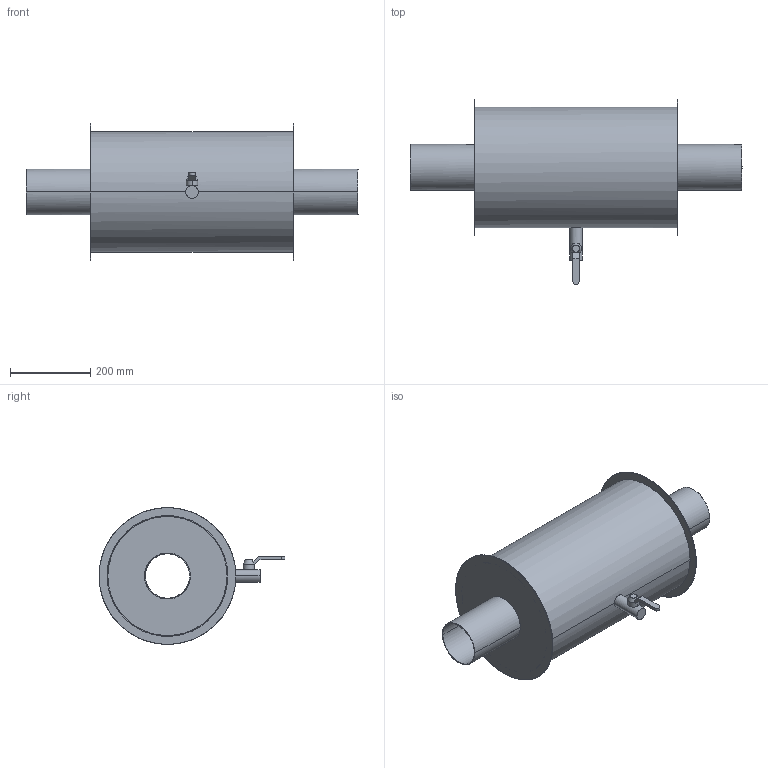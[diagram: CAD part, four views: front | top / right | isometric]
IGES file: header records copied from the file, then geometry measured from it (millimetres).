
Start section:  PTC IGES file: 52178848.igs
Global section: file name: 52178848.igs; native system: Creo Parametric by PTC Inc.; preprocessor: 2023154; author: hrl; organization: Unknown; date: 20240408.083020; units: millimetre
Bounding box: 825 x 462 x 339.88 mm (x, y, z)
Surface area: 1508202.9 mm2 (no closed solid volume)
Topology: 0 solids, 0 shells, 43 faces, 170 edges, 170 vertices
Faces by surface type: revolution 23, bspline 20
